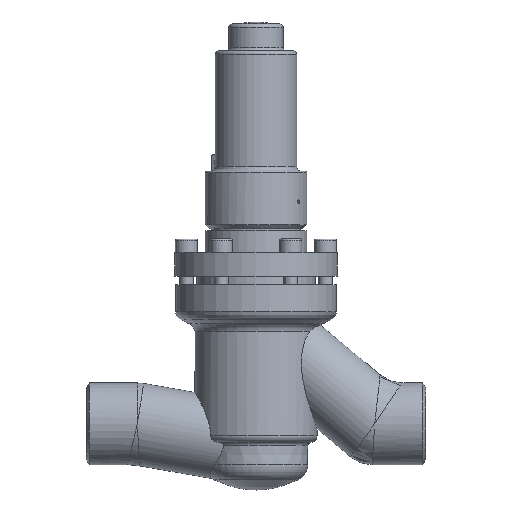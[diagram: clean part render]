
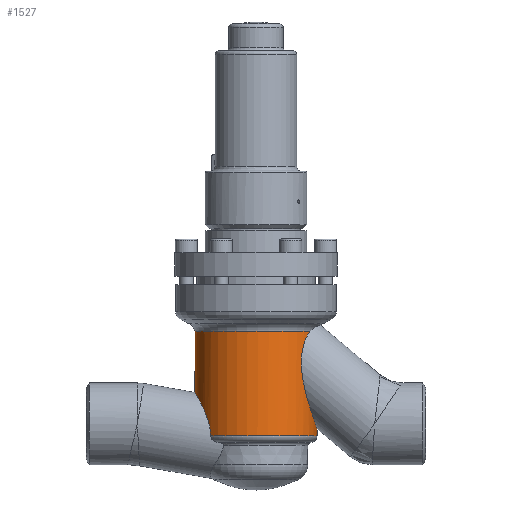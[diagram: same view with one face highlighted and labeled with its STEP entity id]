
A CAD part, top view. The second image highlights one B-rep face of the part: STEP entity #1527.
In plain terms, the highlighted cylindrical face has radius 36 mm (diameter 72 mm), a full revolution.
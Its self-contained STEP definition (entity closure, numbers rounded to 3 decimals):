
#783=CARTESIAN_POINT('',(-26.705,34.0,24.142));
#784=VERTEX_POINT('',#783);
#800=CARTESIAN_POINT('',(-26.705,34.0,-24.142));
#801=VERTEX_POINT('',#800);
#802=CARTESIAN_POINT('',(-26.705,34.0,-24.142));
#803=CARTESIAN_POINT('',(-26.739,35.491,-24.104));
#804=CARTESIAN_POINT('',(-26.896,36.994,-23.933));
#805=CARTESIAN_POINT('',(-27.449,40.17,-23.297));
#806=CARTESIAN_POINT('',(-27.876,41.836,-22.795));
#807=CARTESIAN_POINT('',(-28.882,45.026,-21.506));
#808=CARTESIAN_POINT('',(-29.46,46.551,-20.719));
#809=CARTESIAN_POINT('',(-30.648,49.389,-18.917));
#810=CARTESIAN_POINT('',(-31.258,50.7,-17.902));
#811=CARTESIAN_POINT('',(-32.364,52.958,-15.807));
#812=CARTESIAN_POINT('',(-32.906,54.005,-14.663));
#813=CARTESIAN_POINT('',(-33.917,55.89,-12.144));
#814=CARTESIAN_POINT('',(-34.385,56.728,-10.769));
#815=CARTESIAN_POINT('',(-35.164,58.101,-7.859));
#816=CARTESIAN_POINT('',(-35.476,58.636,-6.32));
#817=CARTESIAN_POINT('',(-35.894,59.35,-3.178));
#818=CARTESIAN_POINT('',(-36.0,59.527,-1.575));
#819=CARTESIAN_POINT('',(-36.0,59.527,1.575));
#820=CARTESIAN_POINT('',(-35.894,59.35,3.178));
#821=CARTESIAN_POINT('',(-35.476,58.636,6.32));
#822=CARTESIAN_POINT('',(-35.164,58.101,7.859));
#823=CARTESIAN_POINT('',(-34.385,56.728,10.769));
#824=CARTESIAN_POINT('',(-33.917,55.89,12.144));
#825=CARTESIAN_POINT('',(-32.906,54.005,14.663));
#826=CARTESIAN_POINT('',(-32.364,52.958,15.807));
#827=CARTESIAN_POINT('',(-31.258,50.7,17.902));
#828=CARTESIAN_POINT('',(-30.648,49.389,18.917));
#829=CARTESIAN_POINT('',(-29.46,46.551,20.719));
#830=CARTESIAN_POINT('',(-28.882,45.026,21.506));
#831=CARTESIAN_POINT('',(-27.876,41.836,22.795));
#832=CARTESIAN_POINT('',(-27.449,40.17,23.297));
#833=CARTESIAN_POINT('',(-26.896,36.994,23.933));
#834=CARTESIAN_POINT('',(-26.739,35.491,24.104));
#835=CARTESIAN_POINT('',(-26.705,34.0,24.142));
#836=B_SPLINE_CURVE_WITH_KNOTS('',3,(#802,#803,#804,#805,#806,#807,#808,#809,#810,#811,#812,#813,#814,#815,#816,#817,#818,#819,#820,#821,#822,#823,#824,#825,#826,#827,#828,#829,#830,#831,#832,#833,#834,#835),.UNSPECIFIED.,.F.,.U.,(4,2,2,2,2,2,2,2,2,2,2,2,2,2,2,2,4),(0.063,0.509,1.019,1.528,2.037,2.51,2.982,3.455,3.927,4.4,4.872,5.345,5.817,6.326,6.836,7.345,7.791),.UNSPECIFIED.);
#837=EDGE_CURVE('',#801,#784,#836,.T.);
#978=CARTESIAN_POINT('',(31.733,95.5,-17.001));
#979=VERTEX_POINT('',#978);
#980=CARTESIAN_POINT('',(31.733,95.5,17.001));
#981=VERTEX_POINT('',#980);
#982=CARTESIAN_POINT('',(31.733,95.5,-17.001));
#983=CARTESIAN_POINT('',(31.709,95.462,-17.046));
#984=CARTESIAN_POINT('',(31.685,95.424,-17.09));
#985=CARTESIAN_POINT('',(31.025,94.376,-18.309));
#986=CARTESIAN_POINT('',(30.355,93.196,-19.386));
#987=CARTESIAN_POINT('',(29.103,90.532,-21.219));
#988=CARTESIAN_POINT('',(28.524,89.047,-21.975));
#989=CARTESIAN_POINT('',(27.593,85.876,-23.134));
#990=CARTESIAN_POINT('',(27.24,84.185,-23.539));
#991=CARTESIAN_POINT('',(26.793,80.751,-24.047));
#992=CARTESIAN_POINT('',(26.698,79.01,-24.15));
#993=CARTESIAN_POINT('',(26.698,74.831,-24.15));
#994=CARTESIAN_POINT('',(26.906,72.266,-23.924));
#995=CARTESIAN_POINT('',(27.608,67.13,-23.111));
#996=CARTESIAN_POINT('',(28.1,64.559,-22.522));
#997=CARTESIAN_POINT('',(29.806,57.017,-20.277));
#998=CARTESIAN_POINT('',(31.237,52.22,-18.144));
#999=CARTESIAN_POINT('',(33.346,45.63,-13.702));
#1000=CARTESIAN_POINT('',(34.227,43.04,-11.482));
#1001=CARTESIAN_POINT('',(35.225,40.178,-7.551));
#1002=CARTESIAN_POINT('',(35.504,39.392,-6.141));
#1003=CARTESIAN_POINT('',(35.892,38.305,-3.169));
#1004=CARTESIAN_POINT('',(36.0,38.004,-1.607));
#1005=CARTESIAN_POINT('',(36.0,38.004,1.607));
#1006=CARTESIAN_POINT('',(35.892,38.305,3.169));
#1007=CARTESIAN_POINT('',(35.504,39.392,6.141));
#1008=CARTESIAN_POINT('',(35.225,40.178,7.551));
#1009=CARTESIAN_POINT('',(34.227,43.04,11.482));
#1010=CARTESIAN_POINT('',(33.346,45.63,13.702));
#1011=CARTESIAN_POINT('',(31.237,52.22,18.144));
#1012=CARTESIAN_POINT('',(29.806,57.017,20.277));
#1013=CARTESIAN_POINT('',(28.1,64.559,22.522));
#1014=CARTESIAN_POINT('',(27.608,67.13,23.111));
#1015=CARTESIAN_POINT('',(26.906,72.266,23.924));
#1016=CARTESIAN_POINT('',(26.698,74.831,24.15));
#1017=CARTESIAN_POINT('',(26.698,77.335,24.15));
#1018=CARTESIAN_POINT('',(26.698,79.01,24.15));
#1019=CARTESIAN_POINT('',(26.793,80.751,24.047));
#1020=CARTESIAN_POINT('',(27.24,84.185,23.539));
#1021=CARTESIAN_POINT('',(27.593,85.876,23.134));
#1022=CARTESIAN_POINT('',(28.524,89.047,21.975));
#1023=CARTESIAN_POINT('',(29.103,90.532,21.219));
#1024=CARTESIAN_POINT('',(30.355,93.196,19.386));
#1025=CARTESIAN_POINT('',(31.025,94.376,18.309));
#1026=CARTESIAN_POINT('',(31.685,95.424,17.09));
#1027=CARTESIAN_POINT('',(31.709,95.462,17.046));
#1028=CARTESIAN_POINT('',(31.733,95.5,17.001));
#1029=B_SPLINE_CURVE_WITH_KNOTS('',3,(#982,#983,#984,#985,#986,#987,#988,#989,#990,#991,#992,#993,#994,#995,#996,#997,#998,#999,#1000,#1001,#1002,#1003,#1004,#1005,#1006,#1007,#1008,#1009,#1010,#1011,#1012,#1013,#1014,#1015,#1016,#1017,#1018,#1019,#1020,#1021,#1022,#1023,#1024,#1025,#1026,#1027,#1028),.UNSPECIFIED.,.F.,.U.,(4,2,2,2,2,2,2,2,2,2,2,2,2,2,2,2,2,3,2,2,2,2,4),(-11.895,-11.876,-11.374,-10.871,-10.368,-9.866,-9.115,-8.364,-6.862,-5.897,-5.415,-4.933,-4.451,-3.969,-3.004,-1.502,-0.751,0.0,0.503,1.005,1.508,2.01,2.029),.UNSPECIFIED.);
#1030=EDGE_CURVE('',#979,#981,#1029,.T.);
#1502=CARTESIAN_POINT('',(0.0,64.75,0.0));
#1503=DIRECTION('',(0.0,1.0,0.0));
#1504=DIRECTION('',(-1.0,0.0,0.0));
#1505=AXIS2_PLACEMENT_3D('',#1502,#1503,#1504);
#1506=CYLINDRICAL_SURFACE('',#1505,36.0);
#1507=ORIENTED_EDGE('',*,*,#837,.T.);
#1508=CARTESIAN_POINT('',(0.0,34.0,0.0));
#1509=DIRECTION('',(0.0,1.0,0.0));
#1510=DIRECTION('',(-1.0,0.0,0.0));
#1511=AXIS2_PLACEMENT_3D('',#1508,#1509,#1510);
#1512=CIRCLE('',#1511,36.);
#1513=EDGE_CURVE('',#784,#801,#1512,.T.);
#1514=ORIENTED_EDGE('',*,*,#1513,.T.);
#1515=EDGE_LOOP('',(#1507,#1514));
#1516=FACE_OUTER_BOUND('',#1515,.T.);
#1517=ORIENTED_EDGE('',*,*,#1030,.T.);
#1518=CARTESIAN_POINT('',(0.0,95.5,0.0));
#1519=DIRECTION('',(0.0,1.0,0.0));
#1520=DIRECTION('',(-1.0,0.0,0.0));
#1521=AXIS2_PLACEMENT_3D('',#1518,#1519,#1520);
#1522=CIRCLE('',#1521,36.);
#1523=EDGE_CURVE('',#979,#981,#1522,.T.);
#1524=ORIENTED_EDGE('',*,*,#1523,.F.);
#1525=EDGE_LOOP('',(#1517,#1524));
#1526=FACE_BOUND('',#1525,.T.);
#1527=ADVANCED_FACE('',(#1516,#1526),#1506,.T.);
